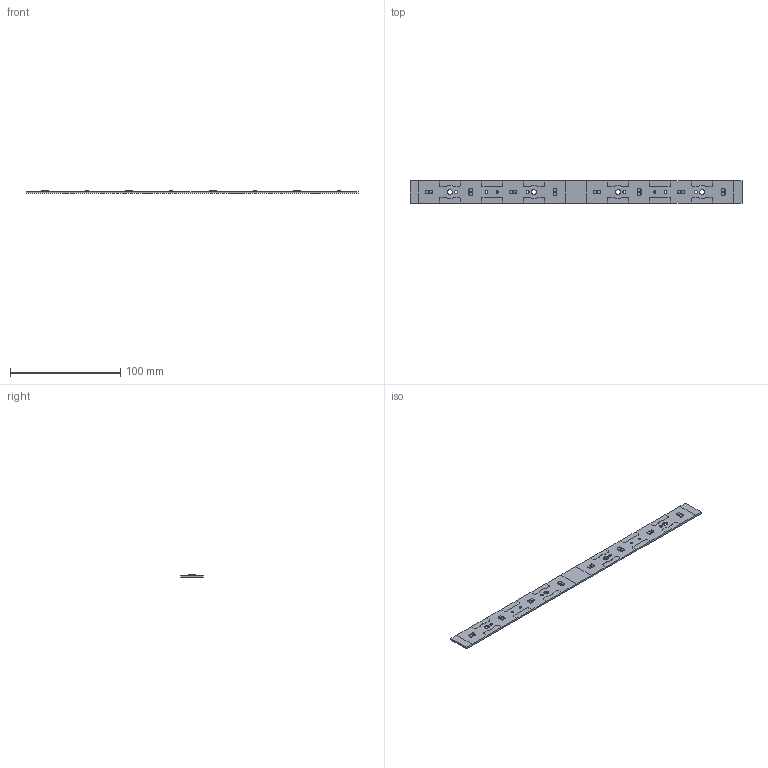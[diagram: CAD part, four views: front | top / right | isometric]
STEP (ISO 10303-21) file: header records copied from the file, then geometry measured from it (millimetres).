
FILE_DESCRIPTION(('CATIA V5 STEP Exchange','CAx-IF Rec.Pracs.--- Model Styling and Organization---1.4--- 2014-01-23','CAx-IF Rec.Pracs.---3D Tessellated Data Validation Properties---0.5---2014-09-14'),'2;1');
FILE_NAME('Z:\Engineering\Design Library\Daisy\6-Sessions\20190205_Daisy-8x1\PCB_DAISY-8X1-PCB.stp','2020-01-03T08:57:47+00:00',('none'),('none'),'CATIA Version 5-6 Release 2018 SP4','CATIA V5 STEP AP242','none');
FILE_SCHEMA(('AP242_MANAGED_MODEL_BASED_3D_ENGINEERING_MIM_LF {1 0 10303 442 1 1 4}'));
Length unit declared in the file: millimetre
Products named in the file (1): Part4
Bounding box: 300.7 x 20 x 2.35 mm (x, y, z)
Volume: 9569.7 mm3; surface area: 13317.3 mm2
Topology: 1 solids, 1 shells, 1262 faces, 3732 edges, 2488 vertices
Faces by surface type: plane 766, cylinder 288, extrusion 208
Entity records: 45355 total; most frequent: CARTESIAN_POINT 14102, ORIENTED_EDGE 7464, DIRECTION 4726, EDGE_CURVE 3732, VECTOR 2948, LINE 2740, VERTEX_POINT 2488, EDGE_LOOP 1334
